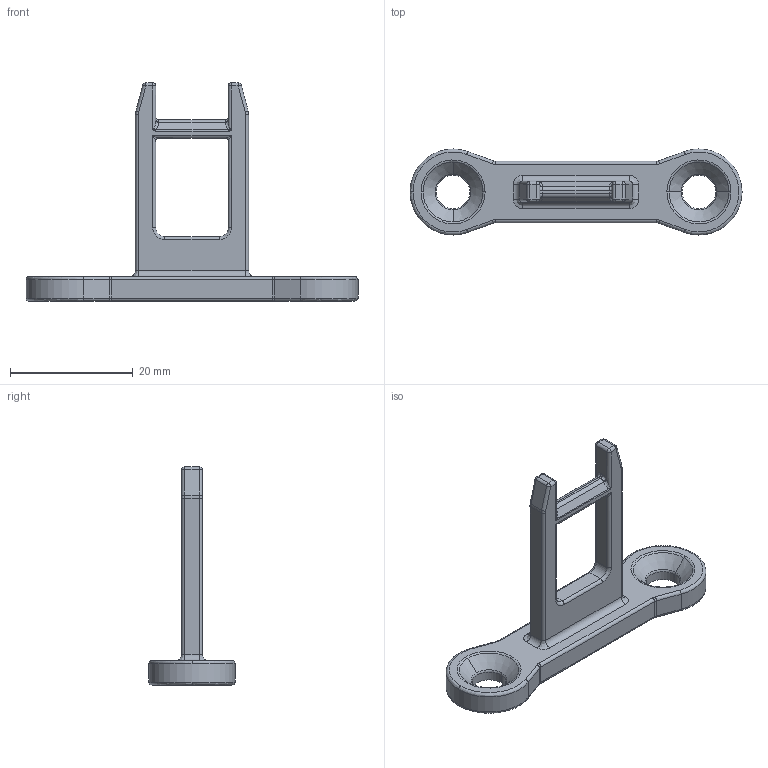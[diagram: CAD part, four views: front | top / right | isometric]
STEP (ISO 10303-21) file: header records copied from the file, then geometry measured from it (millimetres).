
FILE_DESCRIPTION (( 'STEP AP214' ), '1' );
FILE_NAME ('ACIS-MSP.STEP', '2015-10-27T19:26:32', ( '' ), ( '' ), 'SwSTEP 2.0', 'SolidWorks 2015', '' );
FILE_SCHEMA (( 'AUTOMOTIVE_DESIGN' ));
Length unit declared in the file: millimetre
Products named in the file (1): ACIS-MSP
Bounding box: 54 x 14 x 35.5 mm (x, y, z)
Volume: 3068.9 mm3; surface area: 2590.8 mm2
Topology: 1 solids, 1 shells, 158 faces, 365 edges, 198 vertices
Faces by surface type: cylinder 67, bspline 62, plane 25, cone 4
Entity records: 5661 total; most frequent: CARTESIAN_POINT 2439, ORIENTED_EDGE 706, DIRECTION 635, EDGE_CURVE 353, AXIS2_PLACEMENT_3D 251, VERTEX_POINT 198, EDGE_LOOP 165, FACE_OUTER_BOUND 158
